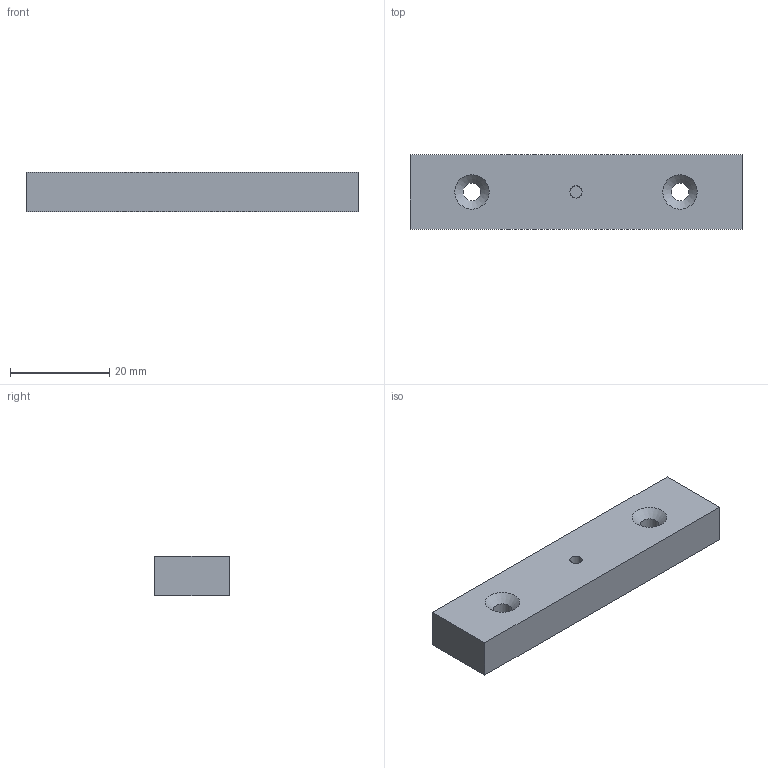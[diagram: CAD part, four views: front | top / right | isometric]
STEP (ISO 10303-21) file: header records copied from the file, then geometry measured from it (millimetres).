
FILE_DESCRIPTION(/* description */ ('Unknown'),/* implementation_level */ '2;1');
FILE_NAME(/* name */ 'F39 Z01',/* time_stamp */ '2020-12-21T15:34:33+01:00',/* author */ ('Unknown'),/* organization */ ('Unknown'),/* preprocessor_version */ 'ST-DEVELOPER v16.7',/* originating_system */ 'Solid Edge',/* authorisation */ 'Unknown');
FILE_SCHEMA (('AUTOMOTIVE_DESIGN {1 0 10303 214 3 1 1}'));
Length unit declared in the file: millimetre
Products named in the file (1): Piastra 2 elementi
Bounding box: 67 x 15 x 8 mm (x, y, z)
Volume: 7812.1 mm3; surface area: 3486 mm2
Topology: 1 solids, 1 shells, 12 faces, 27 edges, 18 vertices
Faces by surface type: plane 7, cylinder 3, cone 2
Full cylindrical faces by diameter (mm): 2.459 x1, 3.6 x2
Entity records: 412 total; most frequent: DIRECTION 54, CARTESIAN_POINT 49, ORIENTED_EDGE 40, EDGE_LOOP 22, FACE_BOUND 22, AXIS2_PLACEMENT_3D 21, EDGE_CURVE 20, VERTEX_POINT 16
